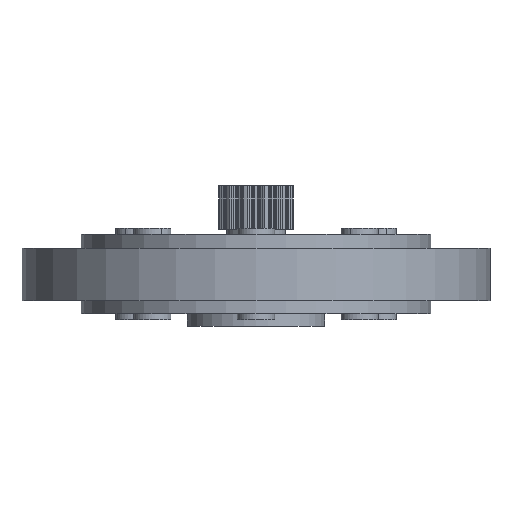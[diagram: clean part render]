
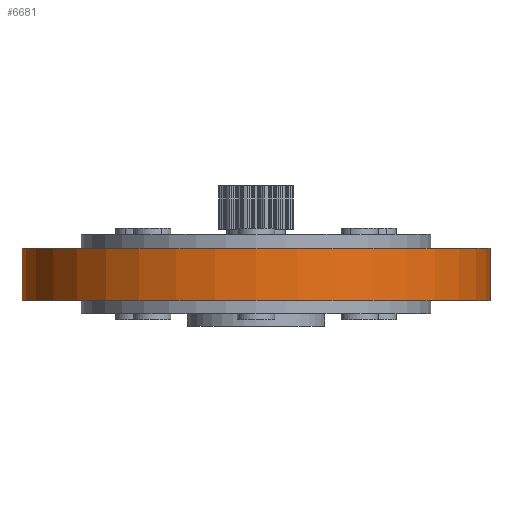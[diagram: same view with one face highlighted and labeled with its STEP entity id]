
A CAD part, front view. The second image highlights one B-rep face of the part: STEP entity #6681.
In plain terms, the highlighted cylindrical face has radius 37.5 mm (diameter 75 mm), a partial arc.
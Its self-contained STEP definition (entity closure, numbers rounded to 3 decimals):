
#813 = EDGE_CURVE ( 'NONE', #3881, #866, #1129, .T. ) ;
#866 = VERTEX_POINT ( 'NONE', #1845 ) ;
#932 = DIRECTION ( 'NONE',  ( 0., 0., 1. ) ) ;
#1129 = CIRCLE ( 'NONE', #12544, 37.5 ) ;
#1585 = CYLINDRICAL_SURFACE ( 'NONE', #11543, 37.5 ) ;
#1835 = EDGE_LOOP ( 'NONE', ( #12938, #8866, #10458, #7032 ) ) ;
#1845 = CARTESIAN_POINT ( 'NONE',  ( 37.5, 0., -4.2 ) ) ;
#1942 = CARTESIAN_POINT ( 'NONE',  ( -37.5, 0., -4.2 ) ) ;
#2318 = LINE ( 'NONE', #9903, #5019 ) ;
#2929 = EDGE_CURVE ( 'NONE', #5419, #866, #9670, .T. ) ;
#3236 = DIRECTION ( 'NONE',  ( 0., 0., -1. ) ) ;
#3338 = EDGE_CURVE ( 'NONE', #11813, #5419, #11472, .T. ) ;
#3744 = CARTESIAN_POINT ( 'NONE',  ( 0., 0., 4.2 ) ) ;
#3881 = VERTEX_POINT ( 'NONE', #1942 ) ;
#5019 = VECTOR ( 'NONE', #6686, 1000. ) ;
#5419 = VERTEX_POINT ( 'NONE', #6012 ) ;
#6012 = CARTESIAN_POINT ( 'NONE',  ( 37.5, 0., 4.2 ) ) ;
#6193 = VECTOR ( 'NONE', #3236, 1000. ) ;
#6681 = ADVANCED_FACE ( 'NONE', ( #7163 ), #1585, .T. ) ;
#6686 = DIRECTION ( 'NONE',  ( 0., 0., -1. ) ) ;
#7032 = ORIENTED_EDGE ( 'NONE', *, *, #813, .T. ) ;
#7163 = FACE_OUTER_BOUND ( 'NONE', #1835, .T. ) ;
#7901 = DIRECTION ( 'NONE',  ( 0., 0., 1. ) ) ;
#8501 = DIRECTION ( 'NONE',  ( 1., 0., 0. ) ) ;
#8576 = CARTESIAN_POINT ( 'NONE',  ( 0., 0., 4.2 ) ) ;
#8744 = AXIS2_PLACEMENT_3D ( 'NONE', #8576, #932, #8501 ) ;
#8866 = ORIENTED_EDGE ( 'NONE', *, *, #3338, .F. ) ;
#9140 = EDGE_CURVE ( 'NONE', #11813, #3881, #2318, .T. ) ;
#9302 = DIRECTION ( 'NONE',  ( -1., 0., 0. ) ) ;
#9670 = LINE ( 'NONE', #14050, #6193 ) ;
#9903 = CARTESIAN_POINT ( 'NONE',  ( -37.5, 0., 4.2 ) ) ;
#10458 = ORIENTED_EDGE ( 'NONE', *, *, #9140, .T. ) ;
#11325 = DIRECTION ( 'NONE',  ( 0., 0., -1. ) ) ;
#11472 = CIRCLE ( 'NONE', #8744, 37.5 ) ;
#11543 = AXIS2_PLACEMENT_3D ( 'NONE', #3744, #11325, #9302 ) ;
#11813 = VERTEX_POINT ( 'NONE', #13203 ) ;
#12269 = DIRECTION ( 'NONE',  ( 1., 0., 0. ) ) ;
#12544 = AXIS2_PLACEMENT_3D ( 'NONE', #13356, #7901, #12269 ) ;
#12938 = ORIENTED_EDGE ( 'NONE', *, *, #2929, .F. ) ;
#13203 = CARTESIAN_POINT ( 'NONE',  ( -37.5, 0., 4.2 ) ) ;
#13356 = CARTESIAN_POINT ( 'NONE',  ( 0., 0., -4.2 ) ) ;
#14050 = CARTESIAN_POINT ( 'NONE',  ( 37.5, 0., 4.2 ) ) ;
